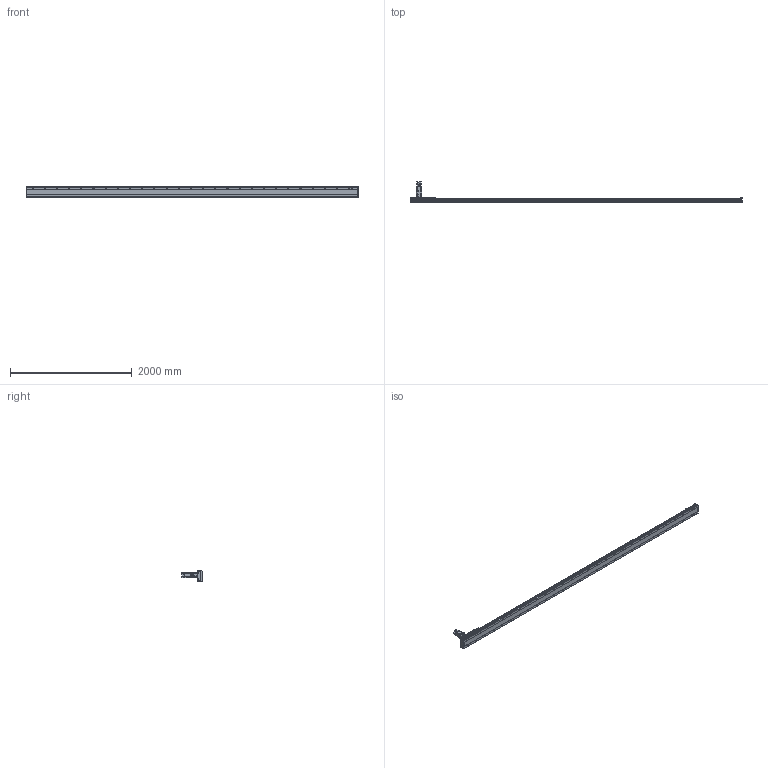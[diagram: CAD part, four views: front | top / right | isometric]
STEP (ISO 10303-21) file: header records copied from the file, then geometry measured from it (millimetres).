
FILE_DESCRIPTION(/* description */ ('STEP AP203'),/* implementation_level */ '2;1');
FILE_NAME(/* name */ 'SHS17A-L13-S5000-BC-T75-C1-N(0)',/* time_stamp */ '2023-03-27T08:59:38+02:00',/* author */ ('License CC BY-ND 4.0'),/* organization */ ('CADENAS'),/* preprocessor_version */ 'ST-DEVELOPER v19.3',/* originating_system */ 'PARTsolutions',/* authorisation */ ' ');
FILE_SCHEMA (('CONFIG_CONTROL_DESIGN'));
Length unit declared in the file: millimetre
Products named in the file (7): SHS17A-L13-S5000-BC-T75-C1-N(0); PSC140-sensor; SHS17A-S5000(0)_body2; T75-p1; SHS17A-S5000_body3; SHS17A-S5000-C1(0)_slider; SHS17A-S5000-C1(0)_body
Assembly tree (13 placements, depth 2):
  SHS17A-L13-S5000-BC-T75-C1-N(0)
    PSC140-sensor  x3
    SHS17A-S5000(0)_body2  x6
    T75-p1
    SHS17A-S5000_body3
    SHS17A-S5000-C1(0)_slider
    SHS17A-S5000-C1(0)_body
Bounding box: 5454 x 333.8 x 193.4 mm (x, y, z)
Volume: 36513670.9 mm3; surface area: 4162159.1 mm2
Topology: 13 solids, 13 shells, 2552 faces, 6531 edges, 4250 vertices
Faces by surface type: plane 1533, cylinder 906, cone 110, torus 3
Full cylindrical faces by diameter (mm): 2.8 x3, 4.134 x24, 4.5 x2, 4.6 x3, 4.917 x15, 5.5 x48, 6 x7, 6.5 x24, 6.647 x64, 6.8 x9, 8 x3, 8.5 x56, 10 x28, 11 x4, 14 x56, 22 x1, 24 x1, 24.2 x1, 28 x1, 28.2 x1, 28.8 x1, 29.8 x1, 48.542 x1, 68 x1, 70 x1, 78 x1, 80 x2
Entity records: 53612 total; most frequent: CARTESIAN_POINT 10928, DIRECTION 8623, ORIENTED_EDGE 8396, EDGE_CURVE 4198, AXIS2_PLACEMENT_3D 3106, VERTEX_POINT 2959, EDGE_LOOP 2515, FACE_BOUND 2515
